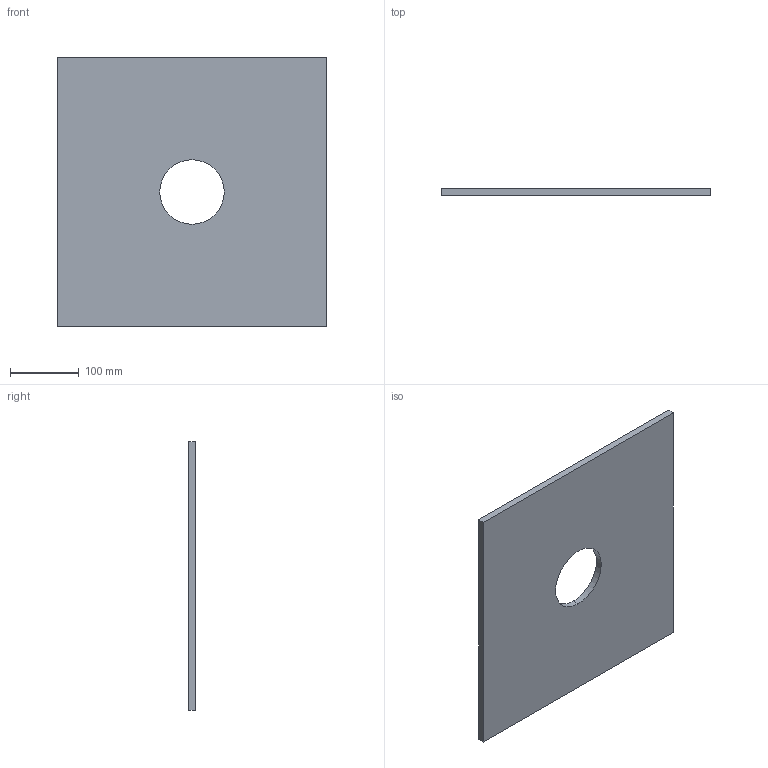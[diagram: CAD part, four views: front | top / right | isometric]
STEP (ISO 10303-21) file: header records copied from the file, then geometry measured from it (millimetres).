
FILE_DESCRIPTION (( 'STEP AP214' ), '1' );
FILE_NAME ('HTIS-B_4050-10.STEP', '2015-11-10T23:45:05', ( '' ), ( '' ), 'SwSTEP 2.0', 'SolidWorks 2014', '' );
FILE_SCHEMA (( 'AUTOMOTIVE_DESIGN' ));
Length unit declared in the file: millimetre
Products named in the file (1): HTIS-B_4050-10
Bounding box: 392 x 10 x 392 mm (x, y, z)
Volume: 1467242.2 mm3; surface area: 312081.5 mm2
Topology: 1 solids, 1 shells, 8 faces, 18 edges, 12 vertices
Faces by surface type: plane 6, cylinder 2
Entity records: 264 total; most frequent: DIRECTION 40, CARTESIAN_POINT 39, ORIENTED_EDGE 36, EDGE_CURVE 18, LINE 14, VECTOR 14, AXIS2_PLACEMENT_3D 13, VERTEX_POINT 12
